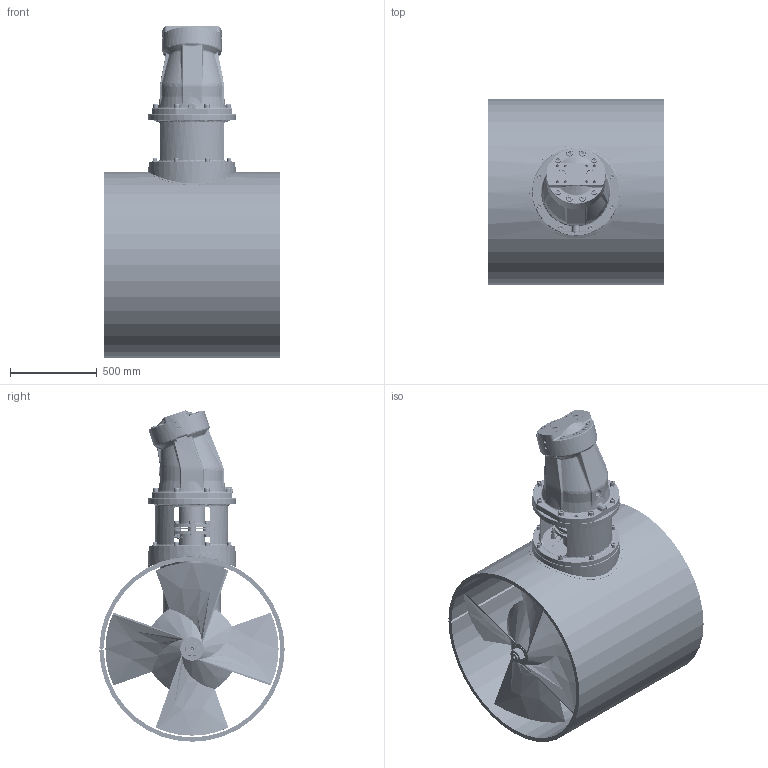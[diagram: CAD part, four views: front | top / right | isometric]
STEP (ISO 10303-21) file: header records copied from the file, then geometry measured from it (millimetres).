
FILE_DESCRIPTION(/* description */ (''),/* implementation_level */ '2;1');
FILE_NAME(/* name */ 'Q:\THRUSTERS\THRUSTER SALES & SUPPORT DOCS\THRUSTER Sales\H-T\H-1000-T\H-1000-T.stp',/* time_stamp */ '2020-03-04T15:46:24+00:00',/* author */ ('Jordan.Griffith'),/* organization */ (''),/* preprocessor_version */ 'ST-DEVELOPER v17',/* originating_system */ 'Autodesk Inventor 2019',/* authorisation */ '');
FILE_SCHEMA (('AUTOMOTIVE_DESIGN { 1 0 10303 214 3 1 1 }'));
Length unit declared in the file: millimetre
Products named in the file (1): H-1000-T_Shrinkwrap_1
Bounding box: 1010 x 1065.96 x 1906.98 mm (x, y, z)
Volume: 236065155.8 mm3; surface area: 18636859.5 mm2
Topology: 83 solids, 83 shells, 3197 faces, 8356 edges, 5521 vertices
Faces by surface type: cylinder 1277, plane 861, torus 424, cone 374, bspline 241, sphere 20
Full cylindrical faces by diameter (mm): 4 x2, 5 x18, 5.5 x2, 6 x4, 6.5 x4, 6.75 x8, 7 x2, 8 x2, 8.3 x2, 9.5 x1, 9.95 x6, 10.25 x40, 10.56 x1, 11 x4, 11.3 x1, 12 x9, 12.3 x3, 12.5 x25, 13 x28, 14 x8, 14.662 x2, 14.9 x1, 15.25 x2, 16 x8, 16.5 x8, 16.662 x2, 17 x12, 17.5 x18, 18 x10, 19 x46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
Entity records: 136533 total; most frequent: CARTESIAN_POINT 54500, DIRECTION 16833, ORIENTED_EDGE 16452, EDGE_CURVE 8226, AXIS2_PLACEMENT_3D 7162, VERTEX_POINT 5521, CIRCLE 4142, EDGE_LOOP 3859
